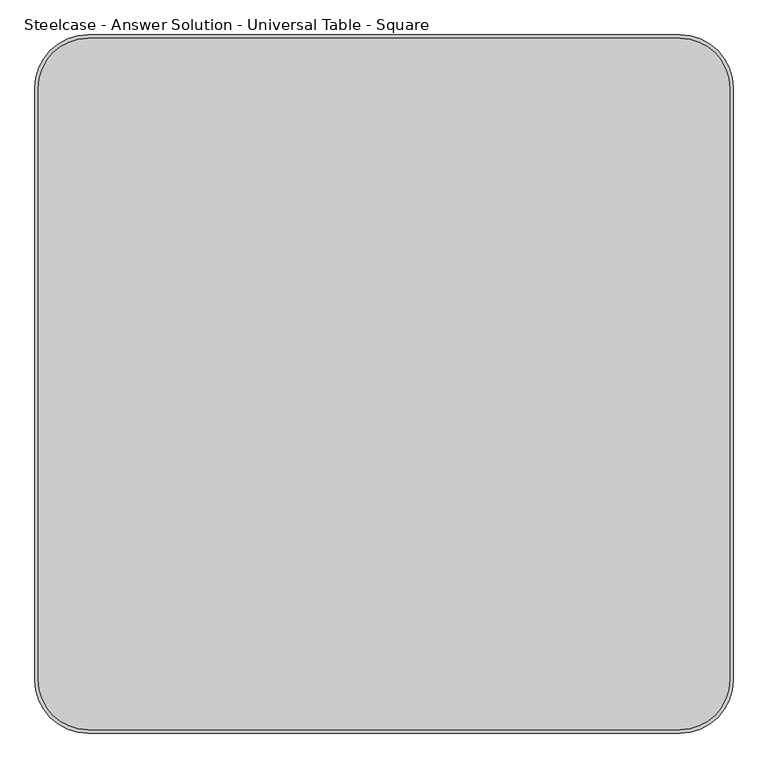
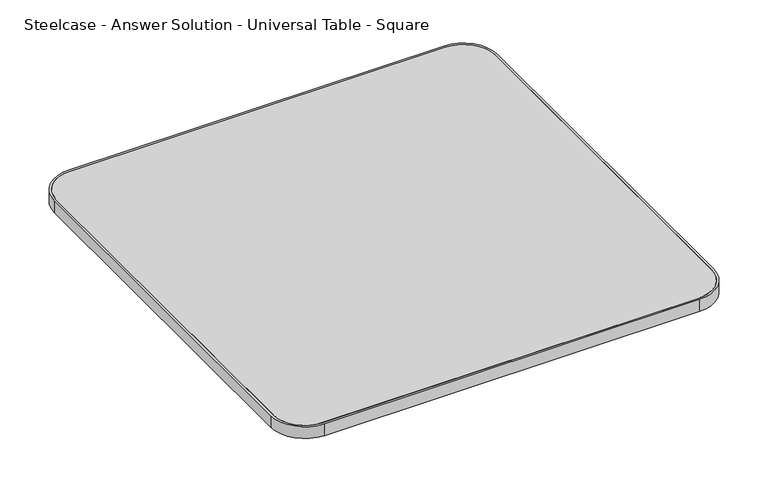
"""IFC4 building model written with IfcOpenShell, lengths in millimetres: furniture geometry, Steelcase - Answer Solution - Universal Table - Square : 42D x 42W."""

import ifcopenshell
import ifcopenshell.guid

model = None  # the IFC model being written
_history = None  # IfcOwnerHistory: only IFC2X3 demands one
_inside = {}  # id of a spatial element -> (the spatial element, [elements in it])
_under = {}  # id of a project, library or spatial element -> (it, [spatial elements below it])
_declared = {}  # id of a project -> (the project, [libraries it declares])
_typed = {}  # id of a type object -> (the type object, [elements of that type])
_made_of = {}  # id of a material, layer set ... -> (it, [elements and type objects made of it])


def new_model(schema):
    """Start an empty IFC model of exactly this schema.

    Asked for "IFC4X3", IfcOpenShell would pick the latest addendum, in which some entities
    have other attributes; the version numbers below select the first issue.
    IFC2X3 requires an IfcOwnerHistory on every rooted entity: one is made here for all.
    """
    global model, _history
    if schema == "IFC4X3":
        model = ifcopenshell.file(schema_version=(4, 3, 0, 0))
    else:
        model = ifcopenshell.file(schema=schema)
    _inside.clear()
    _under.clear()
    _declared.clear()
    _typed.clear()
    _made_of.clear()
    _history = None
    if model.schema == "IFC2X3":
        org = make("IfcOrganization", Name="unknown")
        user = make(
            "IfcPersonAndOrganization",
            ThePerson=make("IfcPerson", FamilyName="unknown"),
            TheOrganization=org,
        )
        app = make(
            "IfcApplication",
            ApplicationDeveloper=org,
            Version="unknown",
            ApplicationFullName="unknown",
            ApplicationIdentifier="unknown",
        )
        _history = make(
            "IfcOwnerHistory",
            OwningUser=user,
            OwningApplication=app,
            ChangeAction="ADDED",
            CreationDate=0,
        )
    return model


def make(cls, **values):
    """One entity of the class cls with the attributes given. An attribute that is None is left unset."""
    return model.create_entity(
        cls, **{name: value for name, value in values.items() if value is not None}
    )


def rooted(cls, **values):
    """An entity with a GlobalId (a new one), such as an element, a storey or a relation."""
    return make(cls, GlobalId=ifcopenshell.guid.new(), OwnerHistory=_history, **values)


def si_unit(unit_type, name, prefix=None):
    """IfcSIUnit, for example si_unit("LENGTHUNIT", "METRE", prefix="MILLI")."""
    return make("IfcSIUnit", UnitType=unit_type, Prefix=prefix, Name=name)


def assignment(units):
    """IfcUnitAssignment: the units of a project."""
    return None if units is None else make("IfcUnitAssignment", Units=units)


def point(xyz):
    """IfcCartesianPoint."""
    return None if xyz is None else make("IfcCartesianPoint", Coordinates=xyz)


def direction(xyz):
    """IfcDirection."""
    return None if xyz is None else make("IfcDirection", DirectionRatios=xyz)


def frame(location, z_axis=None, x_axis=None):
    """IfcAxis2Placement3D, a coordinate frame: its origin and axes. An axis left out is left unset."""
    return make(
        "IfcAxis2Placement3D",
        Location=point(location),
        Axis=direction(z_axis),
        RefDirection=direction(x_axis),
    )


def frame_2d(location, x_axis=None):
    """IfcAxis2Placement2D, a coordinate frame in the plane: its origin and x axis."""
    return make(
        "IfcAxis2Placement2D", Location=point(location), RefDirection=direction(x_axis)
    )


def origin():
    """The frame at (0, 0, 0) with its axes left unset."""
    return frame((0.0, 0.0, 0.0))


def place(relative_to, where):
    """IfcLocalPlacement: puts the frame where relative to a parent placement (None: the world)."""
    return make(
        "IfcLocalPlacement", PlacementRelTo=relative_to, RelativePlacement=where
    )


def context(
    kind, dimensions, precision=None, world=None, true_north=None, identifier=None
):
    """IfcGeometricRepresentationContext, for example the 3D "Model" context."""
    return make(
        "IfcGeometricRepresentationContext",
        ContextIdentifier=identifier,
        ContextType=kind,
        CoordinateSpaceDimension=dimensions,
        Precision=precision,
        WorldCoordinateSystem=world,
        TrueNorth=true_north,
    )


def project(units=None, contexts=None):
    """IfcProject with its units and contexts."""
    return rooted(
        "IfcProject",
        Name="project",
        RepresentationContexts=contexts,
        UnitsInContext=assignment(units),
    )


def spatial(cls, under=None, at=None, **own):
    """A site, building, storey or space (cls), placed at a placement, below another one or the project."""
    s = rooted(cls, ObjectPlacement=at, **own)
    if under is not None:
        _under.setdefault(under.id(), (under, []))[1].append(s)
    return s


def polyline(points):
    """IfcPolyline through the points."""
    return make("IfcPolyline", Points=[point(p) for p in points])


def circle_curve(where, radius):
    """IfcCircle in the frame where."""
    return make("IfcCircle", Position=where, Radius=radius)


def trimmed(basis, trim1, trim2, sense, master):
    """IfcTrimmedCurve: the piece of a basis curve between two trims."""
    return make(
        "IfcTrimmedCurve",
        BasisCurve=basis,
        Trim1=trim1,
        Trim2=trim2,
        SenseAgreement=sense,
        MasterRepresentation=master,
    )


def segment(curve, same_sense, transition):
    """IfcCompositeCurveSegment."""
    return make(
        "IfcCompositeCurveSegment",
        Transition=transition,
        SameSense=same_sense,
        ParentCurve=curve,
    )


def composite_curve(segments, self_intersect=None):
    """IfcCompositeCurve: segments joined end to end."""
    return make("IfcCompositeCurve", Segments=segments, SelfIntersect=self_intersect)


def outline(outer, holes=None, kind="AREA"):
    """IfcArbitraryClosedProfileDef: a profile drawn as a closed curve; with holes, ...WithVoids."""
    if holes is None:
        return make("IfcArbitraryClosedProfileDef", ProfileType=kind, OuterCurve=outer)
    return make(
        "IfcArbitraryProfileDefWithVoids",
        ProfileType=kind,
        OuterCurve=outer,
        InnerCurves=holes,
    )


def extrude(swept, where, along, depth):
    """IfcExtrudedAreaSolid: the profile swept, set in the frame where, extruded along a direction by depth."""
    return make(
        "IfcExtrudedAreaSolid",
        SweptArea=swept,
        Position=where,
        ExtrudedDirection=direction(along),
        Depth=depth,
    )


def shape(context_of_items, identifier, shape_type, items):
    """IfcShapeRepresentation: the items that make up one representation, for example the "Body"."""
    return make(
        "IfcShapeRepresentation",
        ContextOfItems=context_of_items,
        RepresentationIdentifier=identifier,
        RepresentationType=shape_type,
        Items=items,
    )


def source(mapping_origin, context_of_items, identifier, shape_type, items):
    """IfcRepresentationMap: a shape defined once, which mapped items show again and again."""
    return make(
        "IfcRepresentationMap",
        MappingOrigin=mapping_origin,
        MappedRepresentation=shape(context_of_items, identifier, shape_type, items),
    )


def transform(
    local_origin,
    x_axis=None,
    y_axis=None,
    z_axis=None,
    scale=None,
    scale2=None,
    scale3=None,
    uniform=True,
):
    """IfcCartesianTransformationOperator3D, or its non-uniform kind. x_axis, y_axis, z_axis: its Axis1, 2, 3."""
    if uniform:
        return make(
            "IfcCartesianTransformationOperator3D",
            Axis1=direction(x_axis),
            Axis2=direction(y_axis),
            LocalOrigin=point(local_origin),
            Scale=scale,
            Axis3=direction(z_axis),
        )
    return make(
        "IfcCartesianTransformationOperator3DnonUniform",
        Axis1=direction(x_axis),
        Axis2=direction(y_axis),
        LocalOrigin=point(local_origin),
        Scale=scale,
        Axis3=direction(z_axis),
        Scale2=scale2,
        Scale3=scale3,
    )


def mapped(mapping_source, mapping_target):
    """IfcMappedItem: shows the shape of a source again, moved by a transform."""
    return make(
        "IfcMappedItem", MappingSource=mapping_source, MappingTarget=mapping_target
    )


def made_of(thing, what):
    """Note that an element or type object is made of a material, layer set ...; save() writes the relation."""
    if what is not None:
        _made_of.setdefault(what.id(), (what, []))[1].append(thing)
    return thing


def element(
    cls,
    number,
    at=None,
    inside=None,
    cuts=None,
    type_object=None,
    material=None,
    context=None,
    identifier="Body",
    shape_type=None,
    held_by="IfcProductDefinitionShape",
    body=None,
    shapes=None,
    **own,
):
    """One element of the class cls, such as IfcWall. Its Tag is "e" and its number.

    at: its placement. inside: the storey or other place that contains it. cuts: it is an
    opening in that element (IfcRelVoidsElement). A single representation is given by context,
    identifier, shape_type and body (its items); several are given by shapes. held_by: the class
    of the entity that holds the representations. save() writes the other relations.
    """
    e = rooted(cls, Tag="e%d" % number, ObjectPlacement=at, **own)
    if body is not None:
        shapes = [shape(context, identifier, shape_type, body)]
    if shapes is not None:
        e.Representation = make(held_by, Representations=shapes)
    if inside is not None:
        _inside.setdefault(inside.id(), (inside, []))[1].append(e)
    if cuts is not None:
        rooted(
            "IfcRelVoidsElement", RelatingBuildingElement=cuts, RelatedOpeningElement=e
        )
    if type_object is not None:
        _typed.setdefault(type_object.id(), (type_object, []))[1].append(e)
    return made_of(e, material)


def aggregate(whole, parts):
    """IfcRelAggregates: a whole, such as a stair, and the parts it consists of."""
    return rooted("IfcRelAggregates", RelatingObject=whole, RelatedObjects=parts)


def save(model, path):
    """Write the relations noted so far, then the file.

    IfcRelAggregates (storeys below a building ...), IfcRelContainedInSpatialStructure (elements
    in a storey), IfcRelDefinesByType, IfcRelAssociatesMaterial and IfcRelDeclares: one each for
    every whole, place, type object, material and project.
    """
    for whole, parts in _under.values():
        aggregate(whole, parts)
    for where, things in _inside.values():
        rooted(
            "IfcRelContainedInSpatialStructure",
            RelatedElements=things,
            RelatingStructure=where,
        )
    for kind, things in _typed.values():
        rooted("IfcRelDefinesByType", RelatedObjects=things, RelatingType=kind)
    for what, things in _made_of.values():
        rooted("IfcRelAssociatesMaterial", RelatedObjects=things, RelatingMaterial=what)
    for by, libraries in _declared.values():
        rooted("IfcRelDeclares", RelatingContext=by, RelatedDefinitions=libraries)
    model.write(path)


def steelcase_answer_solution_universal_table_square_9a7261b0(model_context):
    return source(origin(), model_context, "Body", "SweptSolid", [
        extrude(outline(composite_curve([segment(polyline([(5.08, -985.52), (5.08, -81.28)]), True, "CONTINUOUS"), segment(trimmed(circle_curve(frame_2d((81.28, -81.28)), 76.2), [point((5.08, -81.28))], [point((81.28, -5.08))], False, "CARTESIAN"), True, "CONTINUOUS"), segment(polyline([(81.28, -5.08), (985.52, -5.08)]), True, "CONTINUOUS"), segment(trimmed(circle_curve(frame_2d((985.52, -81.28)), 76.2), [point((985.52, -5.08))], [point((1061.72, -81.28))], False, "CARTESIAN"), True, "CONTINUOUS"), segment(polyline([(1061.72, -81.28), (1061.72, -985.52)]), True, "CONTINUOUS"), segment(trimmed(circle_curve(frame_2d((985.52, -985.52)), 76.2), [point((1061.72, -985.52))], [point((985.52, -1061.72))], False, "CARTESIAN"), True, "CONTINUOUS"), segment(polyline([(985.52, -1061.72), (81.28, -1061.72)]), True, "CONTINUOUS"), segment(trimmed(circle_curve(frame_2d((81.28, -985.52)), 76.2), [point((81.28, -1061.72))], [point((5.08, -985.52))], False, "CARTESIAN"), True, "CONTINUOUS")], self_intersect=False)), frame((0.0, 0.0, 668.274), z_axis=(0.0, 0.0, 1.0), x_axis=(1.0, 0.0, 0.0)), (0.0, 0.0, 1.0), 30.0990349),
        extrude(outline(composite_curve([segment(polyline([(81.28, 0.0), (985.52, 0.0)]), True, "CONTINUOUS"), segment(trimmed(circle_curve(frame_2d((985.52, -81.28)), 81.28), [point((985.52, 0.0))], [point((1066.8, -81.28))], False, "CARTESIAN"), True, "CONTINUOUS"), segment(polyline([(1066.8, -81.28), (1066.8, -985.52)]), True, "CONTINUOUS"), segment(trimmed(circle_curve(frame_2d((985.52, -985.52)), 81.28), [point((1066.8, -985.52))], [point((985.52, -1066.8))], False, "CARTESIAN"), True, "CONTINUOUS"), segment(polyline([(985.52, -1066.8), (81.28, -1066.8)]), True, "CONTINUOUS"), segment(trimmed(circle_curve(frame_2d((81.28, -985.52)), 81.28), [point((81.28, -1066.8))], [point((0.0, -985.52))], False, "CARTESIAN"), True, "CONTINUOUS"), segment(polyline([(0.0, -985.52), (0.0, -81.28)]), True, "CONTINUOUS"), segment(trimmed(circle_curve(frame_2d((81.28, -81.28)), 81.28), [point((0.0, -81.28))], [point((81.28, 0.0))], False, "CARTESIAN"), True, "CONTINUOUS")], self_intersect=False), holes=[composite_curve([segment(trimmed(circle_curve(frame_2d((81.28, -81.28)), 76.2), [point((81.28, -5.08))], [point((5.08, -81.28))], True, "CARTESIAN"), True, "CONTINUOUS"), segment(polyline([(5.08, -81.28), (5.08, -985.52)]), True, "CONTINUOUS"), segment(trimmed(circle_curve(frame_2d((81.28, -985.52)), 76.2), [point((5.08, -985.52))], [point((81.28, -1061.72))], True, "CARTESIAN"), True, "CONTINUOUS"), segment(polyline([(81.28, -1061.72), (985.52, -1061.72)]), True, "CONTINUOUS"), segment(trimmed(circle_curve(frame_2d((985.52, -985.52)), 76.2), [point((985.52, -1061.72))], [point((1061.72, -985.52))], True, "CARTESIAN"), True, "CONTINUOUS"), segment(polyline([(1061.72, -985.52), (1061.72, -81.28)]), True, "CONTINUOUS"), segment(trimmed(circle_curve(frame_2d((985.52, -81.28)), 76.2), [point((1061.72, -81.28))], [point((985.52, -5.08))], True, "CARTESIAN"), True, "CONTINUOUS"), segment(polyline([(985.52, -5.08), (81.28, -5.08)]), True, "CONTINUOUS")], self_intersect=False)]), frame((0.0, 0.0, 668.274), z_axis=(0.0, 0.0, 1.0), x_axis=(1.0, 0.0, 0.0)), (0.0, 0.0, 1.0), 30.0990349),
    ])


if __name__ == "__main__":
    model = new_model("IFC4")
    model_context = context("Model", 3, world=origin())
    ifc_project = project(units=[si_unit("LENGTHUNIT", "METRE", prefix="MILLI")], contexts=[model_context])
    site = spatial("IfcSite", under=ifc_project)
    building = spatial("IfcBuilding", under=site)
    placement = place(None, origin())
    steelcase_answer_solution_universal_table_square_shape = steelcase_answer_solution_universal_table_square_9a7261b0(model_context)
    element("IfcFurniture", 1, ObjectType="Steelcase - Answer Solution - Universal Table - Square : 42D x 42W", at=placement, inside=building, context=model_context, shape_type="MappedRepresentation", body=[
        mapped(steelcase_answer_solution_universal_table_square_shape, transform((0.0, 0.0, 0.0), x_axis=(1.0, 0.0, 0.0), y_axis=(0.0, 1.0, 0.0), z_axis=(0.0, 0.0, 1.0))),
    ])
    save(model, "model.ifc")
